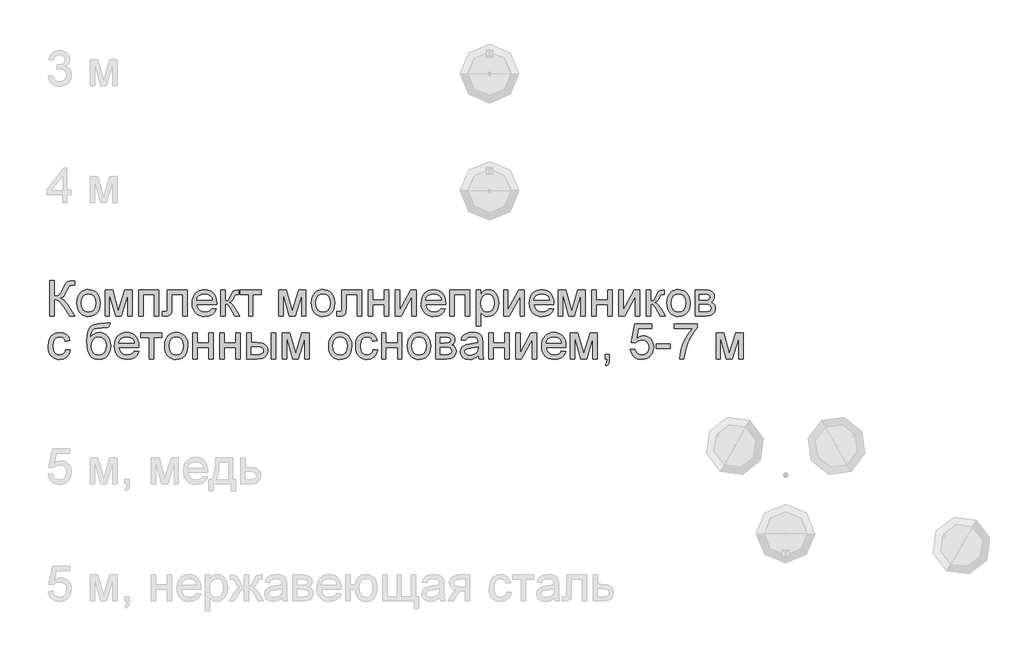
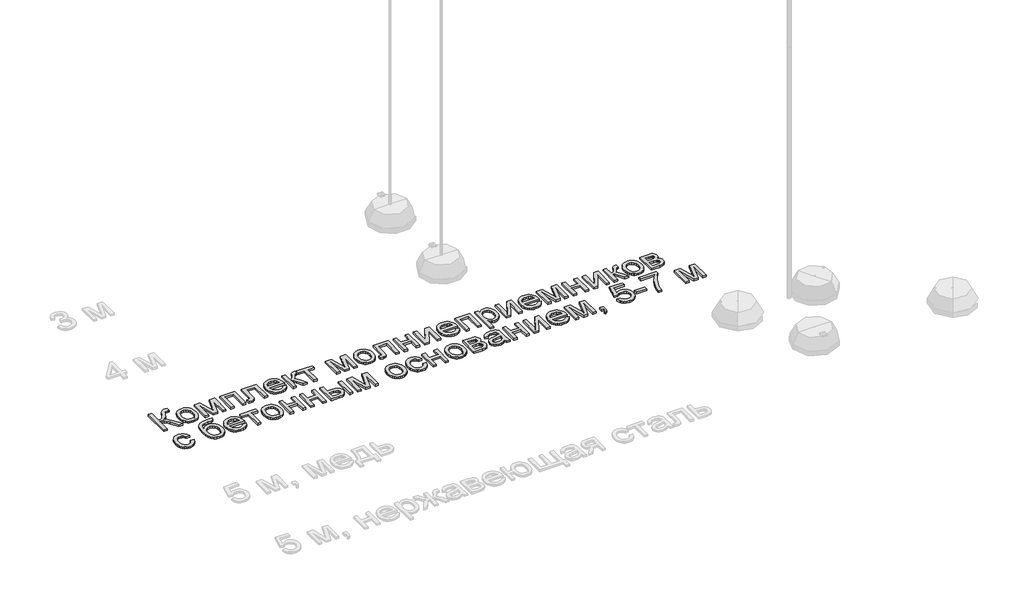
# One storey, part 57 of 124: 1 proxy.
"""IFC4 building model written with IfcOpenShell, lengths in millimetres."""

from ifc_helpers import new_model, si_unit, origin, origin_with_axes, place, context, project, spatial, polyline, outline, extrude, element, save

model = new_model("IFC4")

# Units and contexts
model_context = context("Model", 3, world=origin())
ifc_project = project(units=[si_unit("LENGTHUNIT", "METRE", prefix="MILLI")], contexts=[model_context])

# Site, building, storey
site = spatial("IfcSite", under=ifc_project)
building = spatial("IfcBuilding", under=site)
storey = spatial("IfcBuildingStorey", under=building, Name="Этаж 01", Elevation=0.0)

# Proxy
placement = place(None, origin())
element("IfcBuildingElementProxy", 1, Name="300", ObjectType="300", at=placement, inside=storey, context=model_context, shape_type="SweptSolid", body=[
    extrude(outline(polyline([(10399.8220677, -59773.1294316), (10437.493184, -59773.1294316), (10437.493184, -59904.9783386), (10462.9966033, -59902.4859381), (10479.6156724, -59895.0087366), (10493.0525623, -59877.4147801), (10509.0094439, -59844.572115), (10529.7947766, -59802.4496266), (10539.819561, -59791.0360877), (10553.3392243, -59781.5907174), (10569.3880763, -59775.244753), (10587.0004268, -59773.1294316), (10611.7220969, -59773.5708899), (10611.7220969, -59811.2420063), (10603.4079638, -59811.0212771), (10595.0938307, -59810.8005479), (10577.8401652, -59813.0630221), (10565.6632711, -59819.8504449), (10555.1786343, -59834.1058723), (10543.2960458, -59858.6252072), (10528.7187218, -59889.1594128), (10516.6246012, -59905.8612554), (10490.6153441, -59921.459452), (10505.2064637, -59927.6674607), (10519.6964158, -59938.4923884), (10548.3728173, -59973.9930009), (10611.7220969, -60074.498362), (10568.0177159, -60074.498362), (10514.4540974, -59989.5911975), (10493.7699322, -59962.3587328), (10476.7461929, -59945.2614171), (10459.3361775, -59936.2391112), (10437.493184, -59933.2316759), (10437.493184, -60074.498362), (10399.8220677, -60074.498362), (10399.8220677, -59773.1294316)])), origin_with_axes(), (0.0, 0.0, 1.0), 20.0),
    extrude(outline(polyline([(10630.5576551, -59963.8394579), (10632.5948016, -59935.1768519), (10638.7062413, -59910.4781745), (10648.891974, -59889.7434255), (10663.1519998, -59872.972605), (10677.5085947, -59862.2534434), (10693.3551116, -59854.5968994), (10710.6915507, -59850.002973), (10729.5179118, -59848.4716642), (10750.3009452, -59850.336366), (10769.0928174, -59855.9304716), (10785.8935283, -59865.2539809), (10800.7030778, -59878.306894), (10812.7903006, -59894.6477523), (10821.4240312, -59913.8350977), (10826.6042696, -59935.8689299), (10828.3310157, -59960.7492491), (10825.2775951, -59998.8066415), (10816.1173334, -60027.7773486), (10801.1169451, -60049.4731893), (10780.5431445, -60065.7059823), (10756.106583, -60075.8319342), (10729.5179118, -60079.2072515), (10708.4313757, -60077.3494475), (10689.4647595, -60071.7760352), (10672.6180634, -60062.4870149), (10657.8912873, -60049.4823863), (10645.9328232, -60032.9828788), (10637.3910631, -60013.2092216), (10632.2660071, -59990.1614146), (10630.5576551, -59963.8394579)]), holes=[polyline([(10668.2287714, -59963.7658815), (10672.588173, -59997.8593454), (10685.6663779, -60022.1487541), (10705.3480647, -60036.6892899), (10729.5179118, -60041.5361352), (10753.5773943, -60036.6616988), (10773.2222928, -60022.0383895), (10786.3004977, -59997.427084), (10790.6598994, -59962.5886591), (10786.2729066, -59929.4884766), (10773.1119282, -59905.5301616), (10753.4394385, -59890.9896258), (10729.5179118, -59886.1427805), (10705.3480647, -59890.9712317), (10685.6663779, -59905.4565852), (10672.588173, -59929.6908117), (10668.2287714, -59963.7658815)])]), origin_with_axes(), (0.0, 0.0, 1.0), 20.0),
    extrude(outline(polyline([(10870.7110215, -59853.1805537), (10935.5318291, -59853.1805537), (10985.490204, -60030.3525226), (11039.3481281, -59853.1805537), (11101.4466089, -59853.1805537), (11101.4466089, -60074.498362), (11063.7754926, -60074.498362), (11063.7754926, -59896.2963235), (11009.6232629, -60074.498362), (10960.1799227, -60074.498362), (10908.3821378, -59887.7614613), (10908.3821378, -60074.498362), (10870.7110215, -60074.498362), (10870.7110215, -59853.1805537)])), origin_with_axes(), (0.0, 0.0, 1.0), 20.0),
    extrude(outline(polyline([(11157.9532834, -59853.1805537), (11327.4733067, -59853.1805537), (11327.4733067, -60074.498362), (11289.8021904, -60074.498362), (11289.8021904, -59890.85167), (11195.6243997, -59890.85167), (11195.6243997, -60074.498362), (11157.9532834, -60074.498362), (11157.9532834, -59853.1805537)])), origin_with_axes(), (0.0, 0.0, 1.0), 20.0),
    extrude(outline(polyline([(11402.8155393, -59853.1805537), (11572.3355627, -59853.1805537), (11572.3355627, -60074.2776328), (11534.6644464, -60074.2776328), (11534.6644464, -59890.85167), (11440.4866556, -59890.85167), (11440.4866556, -59996.4338026), (11437.9482699, -60045.1413788), (11433.1933951, -60056.1686416), (11424.0055423, -60065.7059823), (11410.0628146, -60072.3002671), (11391.0433155, -60074.498362), (11360.4355335, -60072.5853756), (11360.4355335, -60036.8272457), (11377.2845289, -60036.8272457), (11394.3174653, -60034.5095891), (11401.1232822, -60027.1519492), (11402.8155393, -59994.3000871), (11402.8155393, -59853.1805537)])), origin_with_axes(), (0.0, 0.0, 1.0), 20.0),
    extrude(outline(polyline([(11783.7941335, -60008.5739085), (11820.7294859, -60013.282798), (11807.4213547, -60041.1130709), (11786.1853665, -60061.9167978), (11757.4997679, -60074.8846381), (11721.8428056, -60079.2072515), (11698.4685033, -60077.3425497), (11677.6417838, -60071.7484441), (11659.3626472, -60062.4249348), (11643.6310934, -60049.3720217), (11630.9805513, -60032.9529884), (11621.9444498, -60013.5311184), (11616.5227889, -59991.1064115), (11614.7155686, -59965.6788678), (11616.541183, -59939.3891007), (11622.0180262, -59916.2171336), (11631.1460982, -59896.1629663), (11643.925399, -59879.226599), (11659.6155661, -59865.771315), (11677.4762369, -59856.1603979), (11697.5074116, -59850.3938476), (11719.70909, -59848.4716642), (11741.1956978, -59850.3892491), (11760.6267649, -59856.1420038), (11778.0022914, -59865.7299283), (11793.3222772, -59879.1530226), (11805.8279658, -59896.0526017), (11814.7606005, -59916.0699808), (11820.1201813, -59939.2051598), (11821.9067082, -59965.4581386), (11821.6859791, -59975.6116817), (11652.3866849, -59975.6116817), (11658.9073932, -60003.8098366), (11674.0549344, -60024.5399871), (11695.916322, -60037.2870982), (11722.5785696, -60041.5361352), (11742.6281383, -60039.5679666), (11759.5139219, -60033.6634605), (11773.2359203, -60023.4547352), (11783.7941335, -60008.5739085)]), holes=[polyline([(11652.3866849, -59937.9405654), (11784.2355919, -59937.9405654), (11779.1404263, -59918.0381495), (11769.1524301, -59903.8011162), (11747.189875, -59890.5573644), (11719.5619372, -59886.1427805), (11694.1688825, -59889.6652506), (11673.1720176, -59900.2326609), (11658.5762994, -59916.7045772), (11652.3866849, -59937.9405654)])]), origin_with_axes(), (0.0, 0.0, 1.0), 20.0),
    extrude(outline(polyline([(11859.5778246, -59853.1805537), (11897.2489409, -59853.1805537), (11897.2489409, -59947.3583445), (11912.571226, -59945.6660873), (11922.4856457, -59940.5893158), (11931.2596313, -59927.3455639), (11943.1606139, -59901.1523659), (11960.340703, -59867.1232813), (11975.4974412, -59856.0500333), (12003.0518027, -59853.1805537), (12010.2622898, -59853.1805537), (12010.2622898, -59891.0723992), (12000.1087467, -59890.85167), (11981.714647, -59894.8247956), (11968.7652007, -59919.620042), (11953.5716743, -59946.4386395), (11932.2713068, -59959.5720267), (11944.2090775, -59964.874126), (11956.0364837, -59974.2321242), (11979.3602022, -60005.1158177), (12019.6800689, -60074.498362), (11976.8586046, -60074.498362), (11937.3480783, -60006.5873457), (11917.4824506, -59977.8557619), (11908.1934302, -59972.6410346), (11897.2489409, -59970.9027922), (11897.2489409, -60074.498362), (11859.5778246, -60074.498362), (11859.5778246, -59853.1805537)])), origin_with_axes(), (0.0, 0.0, 1.0), 20.0),
    extrude(outline(polyline([(12024.3889584, -59853.1805537), (12203.3267608, -59853.1805537), (12203.3267608, -59890.85167), (12132.6934178, -59890.85167), (12132.6934178, -60074.498362), (12095.0223015, -60074.498362), (12095.0223015, -59890.85167), (12024.3889584, -59890.85167), (12024.3889584, -59853.1805537)])), origin_with_axes(), (0.0, 0.0, 1.0), 20.0),
    extrude(outline(polyline([(12354.0112261, -59853.1805537), (12418.8320336, -59853.1805537), (12468.7904086, -60030.3525226), (12522.6483327, -59853.1805537), (12584.7468134, -59853.1805537), (12584.7468134, -60074.498362), (12547.0756971, -60074.498362), (12547.0756971, -59896.2963235), (12492.9234675, -60074.498362), (12443.4801273, -60074.498362), (12391.6823424, -59887.7614613), (12391.6823424, -60074.498362), (12354.0112261, -60074.498362), (12354.0112261, -59853.1805537)])), origin_with_axes(), (0.0, 0.0, 1.0), 20.0),
    extrude(outline(polyline([(12631.8357088, -59963.8394579), (12633.8728554, -59935.1768519), (12639.984295, -59910.4781745), (12650.1700278, -59889.7434255), (12664.4300536, -59872.972605), (12678.7866485, -59862.2534434), (12694.6331654, -59854.5968994), (12711.9696044, -59850.002973), (12730.7959655, -59848.4716642), (12751.578999, -59850.336366), (12770.3708712, -59855.9304716), (12787.171582, -59865.2539809), (12801.9811316, -59878.306894), (12814.0683544, -59894.6477523), (12822.702085, -59913.8350977), (12827.8823233, -59935.8689299), (12829.6090694, -59960.7492491), (12826.5556489, -59998.8066415), (12817.3953872, -60027.7773486), (12802.3949988, -60049.4731893), (12781.8211983, -60065.7059823), (12757.3846367, -60075.8319342), (12730.7959655, -60079.2072515), (12709.7094294, -60077.3494475), (12690.7428133, -60071.7760352), (12673.8961172, -60062.4870149), (12659.1693411, -60049.4823863), (12647.210877, -60032.9828788), (12638.6691169, -60013.2092216), (12633.5440608, -59990.1614146), (12631.8357088, -59963.8394579)]), holes=[polyline([(12669.5068251, -59963.7658815), (12673.8662268, -59997.8593454), (12686.9444317, -60022.1487541), (12706.6261184, -60036.6892899), (12730.7959655, -60041.5361352), (12754.855448, -60036.6616988), (12774.5003466, -60022.0383895), (12787.5785515, -59997.427084), (12791.9379531, -59962.5886591), (12787.5509603, -59929.4884766), (12774.389982, -59905.5301616), (12754.7174923, -59890.9896258), (12730.7959655, -59886.1427805), (12706.6261184, -59890.9712317), (12686.9444317, -59905.4565852), (12673.8662268, -59929.6908117), (12669.5068251, -59963.7658815)])]), origin_with_axes(), (0.0, 0.0, 1.0), 20.0),
    extrude(outline(polyline([(12890.8246334, -59853.1805537), (13060.3446568, -59853.1805537), (13060.3446568, -60074.2776328), (13022.6735405, -60074.2776328), (13022.6735405, -59890.85167), (12928.4957497, -59890.85167), (12928.4957497, -59996.4338026), (12925.957364, -60045.1413788), (12921.2024892, -60056.1686416), (12912.0146364, -60065.7059823), (12898.0719087, -60072.3002671), (12879.0524096, -60074.498362), (12848.4446276, -60072.5853756), (12848.4446276, -60036.8272457), (12865.293623, -60036.8272457), (12882.3265593, -60034.5095891), (12889.1323763, -60027.1519492), (12890.8246334, -59994.3000871), (12890.8246334, -59853.1805537)])), origin_with_axes(), (0.0, 0.0, 1.0), 20.0),
    extrude(outline(polyline([(13116.8513313, -59853.1805537), (13154.5224476, -59853.1805537), (13154.5224476, -59937.9405654), (13253.4091279, -59937.9405654), (13253.4091279, -59853.1805537), (13291.0802442, -59853.1805537), (13291.0802442, -60074.498362), (13253.4091279, -60074.498362), (13253.4091279, -59975.6116817), (13154.5224476, -59975.6116817), (13154.5224476, -60074.498362), (13116.8513313, -60074.498362), (13116.8513313, -59853.1805537)])), origin_with_axes(), (0.0, 0.0, 1.0), 20.0),
    extrude(outline(polyline([(13347.5869186, -59853.1805537), (13385.258035, -59853.1805537), (13385.258035, -60021.9648131), (13477.8171449, -59853.1805537), (13526.5247211, -59853.1805537), (13526.5247211, -60074.498362), (13488.8536048, -60074.498362), (13488.8536048, -59906.7441722), (13396.883106, -60074.498362), (13347.5869186, -60074.498362), (13347.5869186, -59853.1805537)])), origin_with_axes(), (0.0, 0.0, 1.0), 20.0),
    extrude(outline(polyline([(13737.9832919, -60008.5739085), (13774.9186442, -60013.282798), (13761.6105131, -60041.1130709), (13740.3745249, -60061.9167978), (13711.6889263, -60074.8846381), (13676.0319639, -60079.2072515), (13652.6576617, -60077.3425497), (13631.8309422, -60071.7484441), (13613.5518056, -60062.4249348), (13597.8202518, -60049.3720217), (13585.1697097, -60032.9529884), (13576.1336081, -60013.5311184), (13570.7119472, -59991.1064115), (13568.9047269, -59965.6788678), (13570.7303413, -59939.3891007), (13576.2071845, -59916.2171336), (13585.3352566, -59896.1629663), (13598.1145574, -59879.226599), (13613.8047245, -59865.771315), (13631.6653953, -59856.1603979), (13651.69657, -59850.3938476), (13673.8982484, -59848.4716642), (13695.3848561, -59850.3892491), (13714.8159233, -59856.1420038), (13732.1914498, -59865.7299283), (13747.5114356, -59879.1530226), (13760.0171242, -59896.0526017), (13768.9497589, -59916.0699808), (13774.3093397, -59939.2051598), (13776.0958666, -59965.4581386), (13775.8751374, -59975.6116817), (13606.5758433, -59975.6116817), (13613.0965516, -60003.8098366), (13628.2440928, -60024.5399871), (13650.1054803, -60037.2870982), (13676.7677279, -60041.5361352), (13696.8172967, -60039.5679666), (13713.7030802, -60033.6634605), (13727.4250787, -60023.4547352), (13737.9832919, -60008.5739085)]), holes=[polyline([(13606.5758433, -59937.9405654), (13738.4247503, -59937.9405654), (13733.3295847, -59918.0381495), (13723.3415885, -59903.8011162), (13701.3790334, -59890.5573644), (13673.7510956, -59886.1427805), (13648.3580409, -59889.6652506), (13627.361176, -59900.2326609), (13612.7654578, -59916.7045772), (13606.5758433, -59937.9405654)])]), origin_with_axes(), (0.0, 0.0, 1.0), 20.0),
    extrude(outline(polyline([(13813.7669829, -59853.1805537), (13983.2870063, -59853.1805537), (13983.2870063, -60074.498362), (13945.61589, -60074.498362), (13945.61589, -59890.85167), (13851.4380992, -59890.85167), (13851.4380992, -60074.498362), (13813.7669829, -60074.498362), (13813.7669829, -59853.1805537)])), origin_with_axes(), (0.0, 0.0, 1.0), 20.0),
    extrude(outline(polyline([(14039.7936808, -60159.2583737), (14039.7936808, -59853.1805537), (14077.4647971, -59853.1805537), (14077.4647971, -59890.115906), (14089.7520557, -59871.8965502), (14103.5108423, -59858.8827246), (14119.5504973, -59851.0744293), (14138.6803611, -59848.4716642), (14164.1561892, -59852.1136959), (14186.431444, -59863.0397912), (14204.5680264, -59880.5877623), (14217.6278372, -59904.0954218), (14225.518906, -59931.8521184), (14228.1492623, -59962.1472007), (14225.1786152, -59994.3644664), (14216.2666739, -60023.1788237), (14201.6985468, -60047.1279416), (14181.7593427, -60064.7494891), (14158.5367918, -60075.5928109), (14134.1186243, -60079.2072515), (14116.8005794, -60076.7884274), (14101.3403386, -60069.5319551), (14088.1057838, -60058.5782687), (14077.4647971, -60045.0678024), (14077.4647971, -60159.2583737), (14039.7936808, -60159.2583737)]), holes=[polyline([(14077.4647971, -59965.6052914), (14081.5390902, -59999.3768586), (14093.7619695, -60022.9948827), (14111.7973843, -60036.9008221), (14133.3092839, -60041.5361352), (14155.1706715, -60036.7352752), (14173.6659388, -60022.3326951), (14186.2750942, -59997.8501483), (14190.478146, -59962.8093883), (14186.3762617, -59929.2217621), (14174.070609, -59905.2726442), (14156.0627853, -59890.9252464), (14134.8543883, -59886.1427805), (14113.5632179, -59891.2287491), (14094.8656154, -59906.4866548), (14081.8150017, -59931.4382511), (14077.4647971, -59965.6052914)])]), origin_with_axes(), (0.0, 0.0, 1.0), 20.0),
    extrude(outline(polyline([(14270.5292681, -59853.1805537), (14308.2003845, -59853.1805537), (14308.2003845, -60021.9648131), (14400.7594944, -59853.1805537), (14449.4670706, -59853.1805537), (14449.4670706, -60074.498362), (14411.7959543, -60074.498362), (14411.7959543, -59906.7441722), (14319.8254555, -60074.498362), (14270.5292681, -60074.498362), (14270.5292681, -59853.1805537)])), origin_with_axes(), (0.0, 0.0, 1.0), 20.0),
    extrude(outline(polyline([(14660.9256414, -60008.5739085), (14697.8609937, -60013.282798), (14684.5528626, -60041.1130709), (14663.3168744, -60061.9167978), (14634.6312758, -60074.8846381), (14598.9743134, -60079.2072515), (14575.6000112, -60077.3425497), (14554.7732917, -60071.7484441), (14536.4941551, -60062.4249348), (14520.7626013, -60049.3720217), (14508.1120592, -60032.9529884), (14499.0759576, -60013.5311184), (14493.6542967, -59991.1064115), (14491.8470764, -59965.6788678), (14493.6726908, -59939.3891007), (14499.149534, -59916.2171336), (14508.2776061, -59896.1629663), (14521.0569069, -59879.226599), (14536.747074, -59865.771315), (14554.6077448, -59856.1603979), (14574.6389195, -59850.3938476), (14596.8405979, -59848.4716642), (14618.3272056, -59850.3892491), (14637.7582728, -59856.1420038), (14655.1337993, -59865.7299283), (14670.4537851, -59879.1530226), (14682.9594737, -59896.0526017), (14691.8921084, -59916.0699808), (14697.2516892, -59939.2051598), (14699.0382161, -59965.4581386), (14698.8174869, -59975.6116817), (14529.5181928, -59975.6116817), (14536.0389011, -60003.8098366), (14551.1864423, -60024.5399871), (14573.0478298, -60037.2870982), (14599.7100774, -60041.5361352), (14619.7596462, -60039.5679666), (14636.6454297, -60033.6634605), (14650.3674282, -60023.4547352), (14660.9256414, -60008.5739085)]), holes=[polyline([(14529.5181928, -59937.9405654), (14661.3670998, -59937.9405654), (14656.2719342, -59918.0381495), (14646.283938, -59903.8011162), (14624.3213829, -59890.5573644), (14596.6934451, -59886.1427805), (14571.3003904, -59889.6652506), (14550.3035255, -59900.2326609), (14535.7078073, -59916.7045772), (14529.5181928, -59937.9405654)])]), origin_with_axes(), (0.0, 0.0, 1.0), 20.0),
    extrude(outline(polyline([(14736.7093324, -59853.1805537), (14801.53014, -59853.1805537), (14851.4885149, -60030.3525226), (14905.346439, -59853.1805537), (14967.4449198, -59853.1805537), (14967.4449198, -60074.498362), (14929.7738035, -60074.498362), (14929.7738035, -59896.2963235), (14875.6215738, -60074.498362), (14826.1782337, -60074.498362), (14774.3804487, -59887.7614613), (14774.3804487, -60074.498362), (14736.7093324, -60074.498362), (14736.7093324, -59853.1805537)])), origin_with_axes(), (0.0, 0.0, 1.0), 20.0),
    extrude(outline(polyline([(15023.9515943, -59853.1805537), (15061.6227106, -59853.1805537), (15061.6227106, -59937.9405654), (15160.5093909, -59937.9405654), (15160.5093909, -59853.1805537), (15198.1805072, -59853.1805537), (15198.1805072, -60074.498362), (15160.5093909, -60074.498362), (15160.5093909, -59975.6116817), (15061.6227106, -59975.6116817), (15061.6227106, -60074.498362), (15023.9515943, -60074.498362), (15023.9515943, -59853.1805537)])), origin_with_axes(), (0.0, 0.0, 1.0), 20.0),
    extrude(outline(polyline([(15254.6871816, -59853.1805537), (15292.3582979, -59853.1805537), (15292.3582979, -60021.9648131), (15384.9174079, -59853.1805537), (15433.6249841, -59853.1805537), (15433.6249841, -60074.498362), (15395.9538678, -60074.498362), (15395.9538678, -59906.7441722), (15303.983369, -60074.498362), (15254.6871816, -60074.498362), (15254.6871816, -59853.1805537)])), origin_with_axes(), (0.0, 0.0, 1.0), 20.0),
    extrude(outline(polyline([(15490.1316586, -59853.1805537), (15527.8027749, -59853.1805537), (15527.8027749, -59947.3583445), (15543.12506, -59945.6660873), (15553.0394797, -59940.5893158), (15561.8134653, -59927.3455639), (15573.7144479, -59901.1523659), (15590.894537, -59867.1232813), (15606.0512752, -59856.0500333), (15633.6056367, -59853.1805537), (15640.8161238, -59853.1805537), (15640.8161238, -59891.0723992), (15630.6625807, -59890.85167), (15612.268481, -59894.8247956), (15599.3190347, -59919.620042), (15584.1255083, -59946.4386395), (15562.8251408, -59959.5720267), (15574.7629115, -59964.874126), (15586.5903177, -59974.2321242), (15609.9140362, -60005.1158177), (15650.2339029, -60074.498362), (15607.4124386, -60074.498362), (15567.9019123, -60006.5873457), (15548.0362846, -59977.8557619), (15538.7472642, -59972.6410346), (15527.8027749, -59970.9027922), (15527.8027749, -60074.498362), (15490.1316586, -60074.498362), (15490.1316586, -59853.1805537)])), origin_with_axes(), (0.0, 0.0, 1.0), 20.0),
    extrude(outline(polyline([(15664.3605715, -59963.8394579), (15666.397718, -59935.1768519), (15672.5091577, -59910.4781745), (15682.6948904, -59889.7434255), (15696.9549162, -59872.972605), (15711.3115111, -59862.2534434), (15727.158028, -59854.5968994), (15744.4944671, -59850.002973), (15763.3208282, -59848.4716642), (15784.1038616, -59850.336366), (15802.8957338, -59855.9304716), (15819.6964447, -59865.2539809), (15834.5059942, -59878.306894), (15846.593217, -59894.6477523), (15855.2269476, -59913.8350977), (15860.407186, -59935.8689299), (15862.1339321, -59960.7492491), (15859.0805115, -59998.8066415), (15849.9202498, -60027.7773486), (15834.9198615, -60049.4731893), (15814.3460609, -60065.7059823), (15789.9094994, -60075.8319342), (15763.3208282, -60079.2072515), (15742.2342921, -60077.3494475), (15723.2676759, -60071.7760352), (15706.4209798, -60062.4870149), (15691.6942037, -60049.4823863), (15679.7357396, -60032.9828788), (15671.1939795, -60013.2092216), (15666.0689235, -59990.1614146), (15664.3605715, -59963.8394579)]), holes=[polyline([(15702.0316878, -59963.7658815), (15706.3910894, -59997.8593454), (15719.4692943, -60022.1487541), (15739.1509811, -60036.6892899), (15763.3208282, -60041.5361352), (15787.3803107, -60036.6616988), (15807.0252092, -60022.0383895), (15820.1034141, -59997.427084), (15824.4628158, -59962.5886591), (15820.075823, -59929.4884766), (15806.9148446, -59905.5301616), (15787.2423549, -59890.9896258), (15763.3208282, -59886.1427805), (15739.1509811, -59890.9712317), (15719.4692943, -59905.4565852), (15706.3910894, -59929.6908117), (15702.0316878, -59963.7658815)])]), origin_with_axes(), (0.0, 0.0, 1.0), 20.0),
    extrude(outline(polyline([(15904.5139379, -59853.1805537), (15987.508116, -59853.1805537), (16014.1887577, -59854.4405495), (16033.0151188, -59858.220537), (16046.865876, -59865.3574477), (16058.6197057, -59876.6882132), (16066.6487302, -59891.4494783), (16069.3250718, -59908.8778878), (16067.706391, -59922.9217829), (16062.8503486, -59935.0342976), (16054.7385507, -59945.2706141), (16043.3526029, -59953.6859148), (16057.2953305, -59961.5126042), (16068.6628842, -59974.1033655), (16076.2228592, -59990.4649173), (16078.7428508, -60009.6039781), (16072.3600982, -60038.3171678), (16057.1849659, -60058.5322834), (16033.1622716, -60070.5068424), (16000.2368331, -60074.498362), (15904.5139379, -60074.498362), (15904.5139379, -59853.1805537)]), holes=[polyline([(15942.1850542, -59937.9405654), (15979.4147121, -59937.9405654), (16010.1328587, -59936.027579), (16025.0688677, -59928.3756335), (16030.0076835, -59922.0480632), (16031.6539555, -59914.5432705), (16028.7660818, -59903.3044755), (16020.1024608, -59896.0755943), (16004.4490819, -59892.1576511), (15980.5919345, -59890.85167), (15942.1850542, -59890.85167), (15942.1850542, -59937.9405654)]), polyline([(15942.1850542, -60036.8272457), (15988.3910328, -60036.8272457), (16013.5725554, -60035.1257915), (16029.3730871, -60030.0214288), (16037.8527671, -60020.7416055), (16041.0717345, -60006.5137693), (16039.4622508, -59997.0867932), (16034.6337996, -59988.3771869), (16027.2209774, -59981.562173), (16017.8583806, -59977.8189737), (15984.7122129, -59975.6116817), (15942.1850542, -59975.6116817), (15942.1850542, -60036.8272457)])]), origin_with_axes(), (0.0, 0.0, 1.0), 20.0),
    extrude(outline(polyline([(10536.3798643, -60360.3716934), (10574.0509806, -60365.0805829), (10563.5479496, -60398.5854356), (10543.8110806, -60423.904914), (10516.6981776, -60439.8250073), (10484.0670446, -60445.1317051), (10462.9391218, -60443.2807988), (10443.9954983, -60437.7280799), (10427.2361741, -60428.4735485), (10412.6611493, -60415.5172045), (10400.8636336, -60399.1027697), (10392.4368366, -60379.473966), (10387.3807585, -60356.6307933), (10385.6953991, -60330.5732518), (10388.5740757, -60297.050005), (10397.2101055, -60267.9965244), (10411.7414443, -60244.5348502), (10432.3060479, -60227.7870223), (10456.9081563, -60217.7438439), (10483.5520098, -60214.3961177), (10515.3829994, -60218.9946426), (10540.8312364, -60232.7902175), (10559.0873805, -60255.0470782), (10569.3420911, -60285.0294608), (10531.6709748, -60289.7383503), (10524.8375667, -60273.3032222), (10514.19658, -60261.5218013), (10500.3366258, -60254.4308758), (10483.8463154, -60252.067234), (10459.5017244, -60256.7209412), (10440.1787226, -60270.682063), (10427.5695672, -60294.7047572), (10423.3665154, -60329.5431822), (10427.4775967, -60364.8506567), (10439.8108406, -60388.9561244), (10458.7843545, -60402.8344727), (10482.8162458, -60407.4605888), (10502.3231886, -60404.5727151), (10518.3168583, -60395.9090941), (10529.9511264, -60381.2489966), (10536.3798643, -60360.3716934)])), origin_with_axes(), (0.0, 0.0, 1.0), 20.0),
    extrude(outline(polyline([(10880.1288006, -60134.3449956), (10913.0910274, -60134.3449956), (10909.522572, -60152.2516517), (10903.3789427, -60163.738767), (10894.8624745, -60170.5353868), (10884.1755025, -60174.3705566), (10838.0431003, -60176.7250014), (10799.7373876, -60178.8955052), (10775.9078314, -60185.4070165), (10761.652404, -60196.7009937), (10752.0690781, -60213.2188953), (10746.4312865, -60235.0894799), (10744.0124624, -60262.4415063), (10759.1600035, -60241.3986561), (10776.6435954, -60226.3890707), (10796.4816319, -60217.394356), (10818.6925074, -60214.3961177), (10839.2157242, -60216.3022063), (10857.890334, -60222.0204721), (10874.7163367, -60231.550915), (10889.6937325, -60244.8935351), (10901.9901882, -60261.4873123), (10910.7733708, -60280.7712267), (10916.0432804, -60302.7452781), (10917.7999169, -60327.4094666), (10914.314235, -60363.3699316), (10903.8571893, -60392.2302742), (10888.6176776, -60414.6618788), (10870.7845979, -60431.3361303), (10848.1966434, -60441.6828114), (10818.6925074, -60445.1317051), (10784.691014, -60440.68953), (10759.2059888, -60427.3630047), (10740.4532041, -60407.1111009), (10726.6484322, -60381.8927901), (10718.1503581, -60343.9181712), (10715.3176668, -60285.3973428), (10717.1041937, -60245.7327659), (10722.4637745, -60213.1177278), (10731.3964092, -60187.5522284), (10743.9020978, -60169.0362677), (10760.1141975, -60155.9189753), (10780.1660655, -60146.5494807), (10804.0577018, -60140.927784), (10831.7891064, -60139.0538851), (10873.7276539, -60138.2077565), (10880.1288006, -60134.3449956)]), holes=[polyline([(10880.1288006, -60326.2322442), (10876.0453105, -60296.5901525), (10863.79484, -60272.8525667), (10844.1131533, -60257.2635672), (10817.7360142, -60252.067234), (10790.2368351, -60257.5578728), (10779.1497914, -60264.4211713), (10769.8377784, -60274.0297891), (10757.2010319, -60299.6803612), (10752.9887831, -60332.7069673), (10757.6424903, -60364.721898), (10771.603612, -60388.2203604), (10792.3889447, -60402.6505317), (10817.515285, -60407.4605888), (10842.770384, -60401.8963736), (10862.7647704, -60385.2037281), (10875.7877931, -60359.3324268), (10880.1288006, -60326.2322442)])]), origin_with_axes(), (0.0, 0.0, 1.0), 20.0),
    extrude(outline(polyline([(11119.8407087, -60374.498362), (11156.776061, -60379.2072515), (11143.4679298, -60407.0375245), (11122.2319416, -60427.8412513), (11093.546343, -60440.8090916), (11057.8893807, -60445.1317051), (11034.5150784, -60443.2670032), (11013.6883589, -60437.6728976), (10995.4092223, -60428.3493883), (10979.6776685, -60415.2964753), (10967.0271264, -60398.877442), (10957.9910249, -60379.4555719), (10952.569364, -60357.030865), (10950.7621437, -60331.6033214), (10952.5877581, -60305.3135543), (10958.0646013, -60282.1415871), (10967.1926733, -60262.0874199), (10979.9719741, -60245.1510525), (10995.6621412, -60231.6957685), (11013.522812, -60222.0848514), (11033.5539867, -60216.3183011), (11055.7556651, -60214.3961177), (11077.2422729, -60216.3137026), (11096.67334, -60222.0664573), (11114.0488665, -60231.6543818), (11129.3688523, -60245.0774761), (11141.8745409, -60261.9770553), (11150.8071756, -60281.9944343), (11156.1667564, -60305.1296133), (11157.9532834, -60331.3825922), (11157.7325542, -60341.5361352), (10988.43326, -60341.5361352), (10994.9539683, -60369.7342902), (11010.1015095, -60390.4644406), (11031.9628971, -60403.2115517), (11058.6251447, -60407.4605888), (11078.6747134, -60405.4924201), (11095.560497, -60399.5879141), (11109.2824954, -60389.3791887), (11119.8407087, -60374.498362)]), holes=[polyline([(10988.43326, -60303.8650189), (11120.282167, -60303.8650189), (11115.1870014, -60283.962603), (11105.1990052, -60269.7255698), (11083.2364501, -60256.4818179), (11055.6085123, -60252.067234), (11030.2154576, -60255.5897041), (11009.2185927, -60266.1571144), (10994.6228745, -60282.6290308), (10988.43326, -60303.8650189)])]), origin_with_axes(), (0.0, 0.0, 1.0), 20.0),
    extrude(outline(polyline([(11176.7888415, -60219.1050072), (11355.726644, -60219.1050072), (11355.726644, -60256.7761235), (11285.0933009, -60256.7761235), (11285.0933009, -60440.4228155), (11247.4221846, -60440.4228155), (11247.4221846, -60256.7761235), (11176.7888415, -60256.7761235), (11176.7888415, -60219.1050072)])), origin_with_axes(), (0.0, 0.0, 1.0), 20.0),
    extrude(outline(polyline([(11379.2710917, -60329.7639114), (11381.3082382, -60301.1013054), (11387.4196778, -60276.402628), (11397.6054106, -60255.667879), (11411.8654364, -60238.8970586), (11426.2220313, -60228.1778969), (11442.0685482, -60220.5213529), (11459.4049873, -60215.9274265), (11478.2313484, -60214.3961177), (11499.0143818, -60216.2608196), (11517.806254, -60221.8549252), (11534.6069649, -60231.1784345), (11549.4165144, -60244.2313475), (11561.5037372, -60260.5722059), (11570.1374678, -60279.7595512), (11575.3177061, -60301.7933834), (11577.0444523, -60326.6737026), (11573.9910317, -60364.731095), (11564.83077, -60393.7018022), (11549.8303817, -60415.3976428), (11529.2565811, -60431.6304359), (11504.8200196, -60441.7563878), (11478.2313484, -60445.1317051), (11457.1448122, -60443.273901), (11438.1781961, -60437.7004888), (11421.3315, -60428.4114684), (11406.6047239, -60415.4068399), (11394.6462598, -60398.9073324), (11386.1044997, -60379.1336751), (11380.9794437, -60356.0858681), (11379.2710917, -60329.7639114)]), holes=[polyline([(11416.942208, -60329.690335), (11421.3016096, -60363.7837989), (11434.3798145, -60388.0732076), (11454.0615013, -60402.6137435), (11478.2313484, -60407.4605888), (11502.2908308, -60402.5861523), (11521.9357294, -60387.962843), (11535.0139343, -60363.3515375), (11539.373336, -60328.5131126), (11534.9863432, -60295.4129301), (11521.8253648, -60271.4546152), (11502.1528751, -60256.9140793), (11478.2313484, -60252.067234), (11454.0615013, -60256.8956852), (11434.3798145, -60271.3810388), (11421.3016096, -60295.6152652), (11416.942208, -60329.690335)])]), origin_with_axes(), (0.0, 0.0, 1.0), 20.0),
    extrude(outline(polyline([(11619.4244581, -60219.1050072), (11657.0955744, -60219.1050072), (11657.0955744, -60303.8650189), (11755.9822547, -60303.8650189), (11755.9822547, -60219.1050072), (11793.653371, -60219.1050072), (11793.653371, -60440.4228155), (11755.9822547, -60440.4228155), (11755.9822547, -60341.5361352), (11657.0955744, -60341.5361352), (11657.0955744, -60440.4228155), (11619.4244581, -60440.4228155), (11619.4244581, -60219.1050072)])), origin_with_axes(), (0.0, 0.0, 1.0), 20.0),
    extrude(outline(polyline([(11850.1600455, -60219.1050072), (11887.8311618, -60219.1050072), (11887.8311618, -60303.8650189), (11986.7178421, -60303.8650189), (11986.7178421, -60219.1050072), (12024.3889584, -60219.1050072), (12024.3889584, -60440.4228155), (11986.7178421, -60440.4228155), (11986.7178421, -60341.5361352), (11887.8311618, -60341.5361352), (11887.8311618, -60440.4228155), (11850.1600455, -60440.4228155), (11850.1600455, -60219.1050072)])), origin_with_axes(), (0.0, 0.0, 1.0), 20.0),
    extrude(outline(polyline([(12288.0867725, -60219.1050072), (12325.7578888, -60219.1050072), (12325.7578888, -60440.4228155), (12288.0867725, -60440.4228155), (12288.0867725, -60219.1050072)])), origin_with_axes(), (0.0, 0.0, 1.0), 20.0),
    extrude(outline(polyline([(12080.8956329, -60219.1050072), (12118.5667492, -60219.1050072), (12118.5667492, -60299.1561294), (12165.1406097, -60299.1561294), (12205.3960971, -60303.874216), (12221.6127953, -60309.7718242), (12235.2221298, -60318.0284757), (12245.989576, -60328.359062), (12253.6806089, -60340.4784745), (12258.2952287, -60354.3867132), (12259.8334353, -60370.0837781), (12254.6738903, -60397.0403313), (12239.1952554, -60419.7846356), (12227.3333603, -60428.8138393), (12212.385855, -60435.2632706), (12173.2340136, -60440.4228155), (12080.8956329, -60440.4228155), (12080.8956329, -60219.1050072)]), holes=[polyline([(12118.5667492, -60402.7516992), (12157.2679351, -60402.7516992), (12187.2687118, -60400.7743335), (12207.22631, -60394.8422363), (12218.4283168, -60384.7162844), (12222.162319, -60370.1573545), (12219.394007, -60357.8517017), (12211.0890709, -60346.9807888), (12193.3295676, -60339.3656315), (12162.1975538, -60336.8272457), (12118.5667492, -60336.8272457), (12118.5667492, -60402.7516992)])]), origin_with_axes(), (0.0, 0.0, 1.0), 20.0),
    extrude(outline(polyline([(12382.2645633, -60219.1050072), (12447.0853709, -60219.1050072), (12497.0437458, -60396.2769761), (12550.9016699, -60219.1050072), (12613.0001507, -60219.1050072), (12613.0001507, -60440.4228155), (12575.3290344, -60440.4228155), (12575.3290344, -60262.2207771), (12521.1768047, -60440.4228155), (12471.7334645, -60440.4228155), (12419.9356796, -60253.6859148), (12419.9356796, -60440.4228155), (12382.2645633, -60440.4228155), (12382.2645633, -60219.1050072)])), origin_with_axes(), (0.0, 0.0, 1.0), 20.0),
    extrude(outline(polyline([(12777.8112845, -60329.7639114), (12779.8484311, -60301.1013054), (12785.9598707, -60276.402628), (12796.1456035, -60255.667879), (12810.4056293, -60238.8970586), (12824.7622242, -60228.1778969), (12840.6087411, -60220.5213529), (12857.9451801, -60215.9274265), (12876.7715412, -60214.3961177), (12897.5545747, -60216.2608196), (12916.3464469, -60221.8549252), (12933.1471577, -60231.1784345), (12947.9567073, -60244.2313475), (12960.0439301, -60260.5722059), (12968.6776607, -60279.7595512), (12973.857899, -60301.7933834), (12975.5846451, -60326.6737026), (12972.5312246, -60364.731095), (12963.3709629, -60393.7018022), (12948.3705745, -60415.3976428), (12927.796774, -60431.6304359), (12903.3602124, -60441.7563878), (12876.7715412, -60445.1317051), (12855.6850051, -60443.273901), (12836.718389, -60437.7004888), (12819.8716929, -60428.4114684), (12805.1449168, -60415.4068399), (12793.1864527, -60398.9073324), (12784.6446926, -60379.1336751), (12779.5196365, -60356.0858681), (12777.8112845, -60329.7639114)]), holes=[polyline([(12815.4824008, -60329.690335), (12819.8418025, -60363.7837989), (12832.9200074, -60388.0732076), (12852.6016941, -60402.6137435), (12876.7715412, -60407.4605888), (12900.8310237, -60402.5861523), (12920.4759222, -60387.962843), (12933.5541272, -60363.3515375), (12937.9135288, -60328.5131126), (12933.526536, -60295.4129301), (12920.3655576, -60271.4546152), (12900.693068, -60256.9140793), (12876.7715412, -60252.067234), (12852.6016941, -60256.8956852), (12832.9200074, -60271.3810388), (12819.8418025, -60295.6152652), (12815.4824008, -60329.690335)])]), origin_with_axes(), (0.0, 0.0, 1.0), 20.0),
    extrude(outline(polyline([(13159.2313371, -60360.3716934), (13196.9024534, -60365.0805829), (13186.3994225, -60398.5854356), (13166.6625534, -60423.904914), (13139.5496504, -60439.8250073), (13106.9185174, -60445.1317051), (13085.7905946, -60443.2807988), (13066.8469711, -60437.7280799), (13050.0876469, -60428.4735485), (13035.5126221, -60415.5172045), (13023.7151064, -60399.1027697), (13015.2883095, -60379.473966), (13010.2322313, -60356.6307933), (13008.5468719, -60330.5732518), (13011.4255485, -60297.050005), (13020.0615783, -60267.9965244), (13034.5929171, -60244.5348502), (13055.1575207, -60227.7870223), (13079.7596291, -60217.7438439), (13106.4034826, -60214.3961177), (13138.2344722, -60218.9946426), (13163.6827093, -60232.7902175), (13181.9388533, -60255.0470782), (13192.1935639, -60285.0294608), (13154.5224476, -60289.7383503), (13147.6890395, -60273.3032222), (13137.0480528, -60261.5218013), (13123.1880986, -60254.4308758), (13106.6977882, -60252.067234), (13082.3531972, -60256.7209412), (13063.0301954, -60270.682063), (13050.42104, -60294.7047572), (13046.2179882, -60329.5431822), (13050.3290695, -60364.8506567), (13062.6623134, -60388.9561244), (13081.6358273, -60402.8344727), (13105.6677186, -60407.4605888), (13125.1746614, -60404.5727151), (13141.1683312, -60395.9090941), (13152.8025993, -60381.2489966), (13159.2313371, -60360.3716934)])), origin_with_axes(), (0.0, 0.0, 1.0), 20.0),
    extrude(outline(polyline([(13229.8646802, -60219.1050072), (13267.5357965, -60219.1050072), (13267.5357965, -60303.8650189), (13366.4224768, -60303.8650189), (13366.4224768, -60219.1050072), (13404.0935931, -60219.1050072), (13404.0935931, -60440.4228155), (13366.4224768, -60440.4228155), (13366.4224768, -60341.5361352), (13267.5357965, -60341.5361352), (13267.5357965, -60440.4228155), (13229.8646802, -60440.4228155), (13229.8646802, -60219.1050072)])), origin_with_axes(), (0.0, 0.0, 1.0), 20.0),
    extrude(outline(polyline([(13451.1824885, -60329.7639114), (13453.219635, -60301.1013054), (13459.3310747, -60276.402628), (13469.5168074, -60255.667879), (13483.7768333, -60238.8970586), (13498.1334281, -60228.1778969), (13513.9799451, -60220.5213529), (13531.3163841, -60215.9274265), (13550.1427452, -60214.3961177), (13570.9257787, -60216.2608196), (13589.7176508, -60221.8549252), (13606.5183617, -60231.1784345), (13621.3279113, -60244.2313475), (13633.4151341, -60260.5722059), (13642.0488646, -60279.7595512), (13647.229103, -60301.7933834), (13648.9558491, -60326.6737026), (13645.9024285, -60364.731095), (13636.7421669, -60393.7018022), (13621.7417785, -60415.3976428), (13601.1679779, -60431.6304359), (13576.7314164, -60441.7563878), (13550.1427452, -60445.1317051), (13529.0562091, -60443.273901), (13510.089593, -60437.7004888), (13493.2428968, -60428.4114684), (13478.5161207, -60415.4068399), (13466.5576566, -60398.9073324), (13458.0158965, -60379.1336751), (13452.8908405, -60356.0858681), (13451.1824885, -60329.7639114)]), holes=[polyline([(13488.8536048, -60329.690335), (13493.2130064, -60363.7837989), (13506.2912114, -60388.0732076), (13525.9728981, -60402.6137435), (13550.1427452, -60407.4605888), (13574.2022277, -60402.5861523), (13593.8471262, -60387.962843), (13606.9253311, -60363.3515375), (13611.2847328, -60328.5131126), (13606.89774, -60295.4129301), (13593.7367616, -60271.4546152), (13574.0642719, -60256.9140793), (13550.1427452, -60252.067234), (13525.9728981, -60256.8956852), (13506.2912114, -60271.3810388), (13493.2130064, -60295.6152652), (13488.8536048, -60329.690335)])]), origin_with_axes(), (0.0, 0.0, 1.0), 20.0),
    extrude(outline(polyline([(13691.3358549, -60219.1050072), (13774.3300331, -60219.1050072), (13801.0106748, -60220.3650031), (13819.8370359, -60224.1449906), (13833.687793, -60231.2819013), (13845.4416227, -60242.6126667), (13853.4706473, -60257.3739318), (13856.1469888, -60274.8023413), (13854.528308, -60288.8462365), (13849.6722657, -60300.9587512), (13841.5604677, -60311.1950677), (13830.1745199, -60319.6103683), (13844.1172475, -60327.4370578), (13855.4848012, -60340.0278191), (13863.0447762, -60356.3893708), (13865.5647679, -60375.5284316), (13859.1820152, -60404.2416213), (13844.0068829, -60424.4567369), (13819.9841887, -60436.4312959), (13787.0587501, -60440.4228155), (13691.3358549, -60440.4228155), (13691.3358549, -60219.1050072)]), holes=[polyline([(13729.0069712, -60303.8650189), (13766.2366292, -60303.8650189), (13796.9547758, -60301.9520326), (13811.8907848, -60294.3000871), (13816.8296005, -60287.9725167), (13818.4758725, -60280.467724), (13815.5879988, -60269.2289291), (13806.9243778, -60262.0000479), (13791.2709989, -60258.0821046), (13767.4138515, -60256.7761235), (13729.0069712, -60256.7761235), (13729.0069712, -60303.8650189)]), polyline([(13729.0069712, -60402.7516992), (13775.2129498, -60402.7516992), (13800.3944724, -60401.050245), (13816.1950041, -60395.9458823), (13824.6746841, -60386.666059), (13827.8936515, -60372.4382228), (13826.2841678, -60363.0112467), (13821.4557166, -60354.3016405), (13814.0428944, -60347.4866265), (13804.6802977, -60343.7434272), (13771.5341299, -60341.5361352), (13729.0069712, -60341.5361352), (13729.0069712, -60402.7516992)])]), origin_with_axes(), (0.0, 0.0, 1.0), 20.0),
    extrude(outline(polyline([(14053.9203494, -60412.1694783), (14035.9217228, -60427.602128), (14017.3896673, -60437.7004888), (13997.9011186, -60443.273901), (13977.0330124, -60445.1317051), (13945.5515107, -60440.6619388), (13922.3289597, -60427.2526401), (13908.009153, -60406.8903717), (13903.2358842, -60381.5616963), (13905.0385059, -60365.9451056), (13910.4463713, -60351.7632547), (13918.7880955, -60339.6231489), (13929.392294, -60330.1317934), (13955.7694331, -60317.7709583), (13988.3637778, -60312.1055756), (14026.8810227, -60306.1458873), (14053.6996202, -60299.1561294), (14053.9203494, -60290.7684199), (14051.3267813, -60273.9562127), (14043.5460771, -60262.9565411), (14026.1452587, -60254.7895608), (14001.9018353, -60252.067234), (13979.4610336, -60253.8790528), (13963.7892606, -60259.3145093), (13953.1022886, -60269.3668848), (13945.61589, -60285.0294608), (13907.9447737, -60280.3205712), (13914.4838762, -60259.7191795), (13924.2419461, -60243.5323717), (13938.1294914, -60231.1531426), (13957.0570201, -60221.9744868), (13980.2059946, -60216.29071), (14006.7578776, -60214.3961177), (14032.2245087, -60216.0699808), (14052.4120332, -60221.09157), (14067.6331508, -60228.642348), (14078.2005611, -60237.9037772), (14085.2087131, -60249.3541043), (14089.7520557, -60263.4715759), (14091.5914657, -60296.4338026), (14091.5914657, -60343.3019688), (14093.5044521, -60408.7481758), (14101.0092448, -60440.4228155), (14063.3381285, -60440.4228155), (14053.9203494, -60412.1694783)]), holes=[polyline([(14053.9203494, -60336.8272457), (13993.1462438, -60348.3787403), (13960.73584, -60354.4855815), (13946.0573484, -60364.4183953), (13940.9070005, -60378.9129459), (13943.7121007, -60390.1149527), (13952.1274013, -60399.2936085), (13965.9689614, -60405.4188437), (13985.0528399, -60407.4605888), (14005.2863496, -60405.2073115), (14023.1654146, -60398.4474799), (14037.6599652, -60388.4870749), (14047.7399319, -60376.6320776), (14052.2096981, -60364.4183953), (14053.6996202, -60347.4958236), (14053.9203494, -60336.8272457)])]), origin_with_axes(), (0.0, 0.0, 1.0), 20.0),
    extrude(outline(polyline([(14143.3892506, -60219.1050072), (14181.0603669, -60219.1050072), (14181.0603669, -60303.8650189), (14279.9470472, -60303.8650189), (14279.9470472, -60219.1050072), (14317.6181635, -60219.1050072), (14317.6181635, -60440.4228155), (14279.9470472, -60440.4228155), (14279.9470472, -60341.5361352), (14181.0603669, -60341.5361352), (14181.0603669, -60440.4228155), (14143.3892506, -60440.4228155), (14143.3892506, -60219.1050072)])), origin_with_axes(), (0.0, 0.0, 1.0), 20.0),
    extrude(outline(polyline([(14374.124838, -60219.1050072), (14411.7959543, -60219.1050072), (14411.7959543, -60387.8892666), (14504.3550643, -60219.1050072), (14553.0626404, -60219.1050072), (14553.0626404, -60440.4228155), (14515.3915241, -60440.4228155), (14515.3915241, -60272.6686257), (14423.4210253, -60440.4228155), (14374.124838, -60440.4228155), (14374.124838, -60219.1050072)])), origin_with_axes(), (0.0, 0.0, 1.0), 20.0),
    extrude(outline(polyline([(14764.5212113, -60374.498362), (14801.4565636, -60379.2072515), (14788.1484324, -60407.0375245), (14766.9124442, -60427.8412513), (14738.2268457, -60440.8090916), (14702.5698833, -60445.1317051), (14679.195581, -60443.2670032), (14658.3688616, -60437.6728976), (14640.0897249, -60428.3493883), (14624.3581711, -60415.2964753), (14611.707629, -60398.877442), (14602.6715275, -60379.4555719), (14597.2498666, -60357.030865), (14595.4426463, -60331.6033214), (14597.2682607, -60305.3135543), (14602.7451039, -60282.1415871), (14611.8731759, -60262.0874199), (14624.6524767, -60245.1510525), (14640.3426438, -60231.6957685), (14658.2033147, -60222.0848514), (14678.2344893, -60216.3183011), (14700.4361677, -60214.3961177), (14721.9227755, -60216.3137026), (14741.3538426, -60222.0664573), (14758.7293691, -60231.6543818), (14774.0493549, -60245.0774761), (14786.5550435, -60261.9770553), (14795.4876782, -60281.9944343), (14800.847259, -60305.1296133), (14802.633786, -60331.3825922), (14802.4130568, -60341.5361352), (14633.1137626, -60341.5361352), (14639.634471, -60369.7342902), (14654.7820121, -60390.4644406), (14676.6433997, -60403.2115517), (14703.3056473, -60407.4605888), (14723.355216, -60405.4924201), (14740.2409996, -60399.5879141), (14753.962998, -60389.3791887), (14764.5212113, -60374.498362)]), holes=[polyline([(14633.1137626, -60303.8650189), (14764.9626697, -60303.8650189), (14759.867504, -60283.962603), (14749.8795079, -60269.7255698), (14727.9169527, -60256.4818179), (14700.2890149, -60252.067234), (14674.8959602, -60255.5897041), (14653.8990953, -60266.1571144), (14639.3033772, -60282.6290308), (14633.1137626, -60303.8650189)])]), origin_with_axes(), (0.0, 0.0, 1.0), 20.0),
    extrude(outline(polyline([(14840.3049023, -60219.1050072), (14905.1257098, -60219.1050072), (14955.0840848, -60396.2769761), (15008.9420089, -60219.1050072), (15071.0404897, -60219.1050072), (15071.0404897, -60440.4228155), (15033.3693733, -60440.4228155), (15033.3693733, -60262.2207771), (14979.2171437, -60440.4228155), (14929.7738035, -60440.4228155), (14877.9760186, -60253.6859148), (14877.9760186, -60440.4228155), (14840.3049023, -60440.4228155), (14840.3049023, -60219.1050072)])), origin_with_axes(), (0.0, 0.0, 1.0), 20.0),
    extrude(outline(polyline([(15136.9649432, -60440.4228155), (15136.9649432, -60402.7516992), (15174.6360595, -60402.7516992), (15174.6360595, -60440.4228155), (15172.9438023, -60461.9715034), (15167.8670308, -60478.9400604), (15159.1114393, -60491.953886), (15146.3827223, -60501.6383795), (15136.9649432, -60487.5117109), (15145.1319235, -60480.6874999), (15150.7973062, -60471.2513267), (15155.7269249, -60440.4228155), (15136.9649432, -60440.4228155)])), origin_with_axes(), (0.0, 0.0, 1.0), 20.0),
    extrude(outline(polyline([(15353.5738619, -60360.3716934), (15391.2449783, -60355.6628038), (15398.1611598, -60378.2783495), (15410.2276892, -60394.4743543), (15427.3893843, -60404.2140302), (15449.5910627, -60407.4605888), (15476.5936011, -60402.9448373), (15496.8271109, -60389.3975828), (15509.4638574, -60368.3823238), (15513.6761062, -60341.4625588), (15509.7305718, -60316.1154894), (15497.8939687, -60296.7281082), (15478.0743262, -60284.4224555), (15450.1796739, -60280.3205712), (15431.9051358, -60281.9576461), (15417.1070825, -60286.8688708), (15395.9538678, -60303.8650189), (15358.2827515, -60299.1561294), (15391.2449783, -60143.7627746), (15537.2205539, -60143.7627746), (15537.2205539, -60181.4338909), (15421.7056075, -60181.4338909), (15405.5923761, -60264.428069), (15432.502944, -60248.0941085), (15460.7010989, -60242.6494549), (15479.0469142, -60244.3371136), (15495.8982088, -60249.4000895), (15511.2549829, -60257.8383828), (15525.1172363, -60269.6519934), (15536.5928553, -60284.1189528), (15544.789726, -60300.5172928), (15549.7078484, -60318.8470132), (15551.3472226, -60339.1081141), (15545.4427165, -60376.7792304), (15538.062084, -60393.5730435), (15527.7291985, -60409.0056931), (15512.0758196, -60424.8108234), (15493.8104785, -60436.1002021), (15472.9331753, -60442.8738293), (15449.4439099, -60445.1317051), (15412.4441782, -60439.3283666), (15396.7655074, -60432.0741935), (15382.9676334, -60421.9183512), (15371.4874158, -60409.3666774), (15362.7617148, -60394.9250098), (15353.5738619, -60360.3716934)])), origin_with_axes(), (0.0, 0.0, 1.0), 20.0),
    extrude(outline(polyline([(15574.8916702, -60350.9539143), (15574.8916702, -60313.282798), (15692.6139087, -60313.282798), (15692.6139087, -60350.9539143), (15574.8916702, -60350.9539143)])), origin_with_axes(), (0.0, 0.0, 1.0), 20.0),
    extrude(outline(polyline([(15725.5761355, -60181.4338909), (15725.5761355, -60143.7627746), (15923.3494961, -60143.7627746), (15923.3494961, -60174.2234038), (15895.1605382, -60209.8987603), (15867.2474918, -60255.2678074), (15842.6269893, -60306.1918725), (15824.315663, -60358.5322834), (15815.3393423, -60397.6933218), (15810.3361472, -60440.4228155), (15772.6650309, -60440.4228155), (15776.7393239, -60401.5928709), (15787.6378281, -60355.4420747), (15805.0662376, -60306.5229663), (15828.7302469, -60259.3880857), (15856.3581848, -60216.7781536), (15885.6783798, -60181.4338909), (15725.5761355, -60181.4338909)])), origin_with_axes(), (0.0, 0.0, 1.0), 20.0),
    extrude(outline(polyline([(16083.4517404, -60219.1050072), (16148.2725479, -60219.1050072), (16198.2309229, -60396.2769761), (16252.088847, -60219.1050072), (16314.1873278, -60219.1050072), (16314.1873278, -60440.4228155), (16276.5162114, -60440.4228155), (16276.5162114, -60262.2207771), (16222.3639818, -60440.4228155), (16172.9206416, -60440.4228155), (16121.1228567, -60253.6859148), (16121.1228567, -60440.4228155), (16083.4517404, -60440.4228155), (16083.4517404, -60219.1050072)])), origin_with_axes(), (0.0, 0.0, 1.0), 20.0),
])

save(model, "model.ifc")
